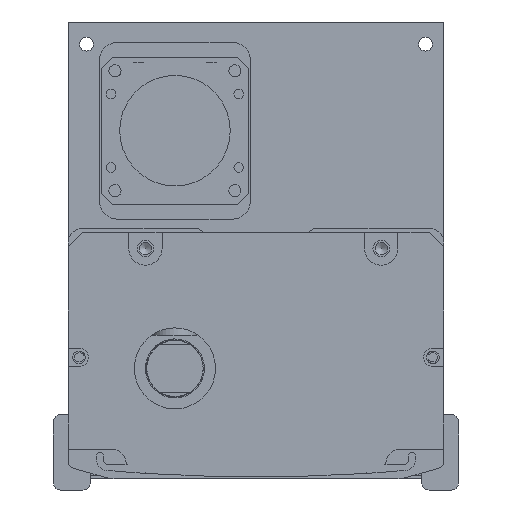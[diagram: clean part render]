
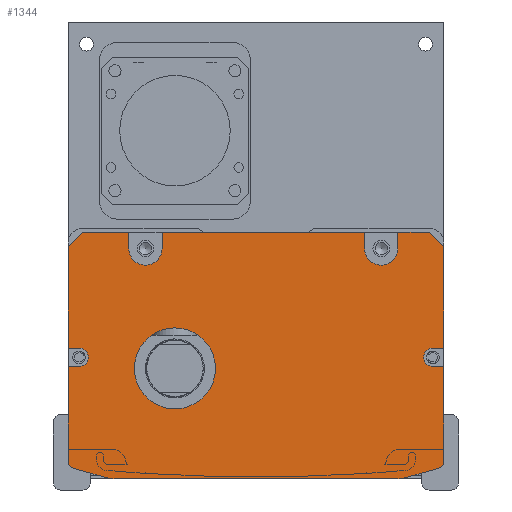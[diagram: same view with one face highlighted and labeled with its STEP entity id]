
A CAD part, front view. The second image highlights one B-rep face of the part: STEP entity #1344.
In plain terms, the highlighted planar face has unit normal (0, -1, 0).
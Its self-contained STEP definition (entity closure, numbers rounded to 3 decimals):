
#1344=ADVANCED_FACE('',(#3990,#3991),#2128,.F.);
#2128=PLANE('',#13024);
#2515=LINE('',#18638,#3277);
#2516=LINE('',#18641,#3278);
#2517=LINE('',#18643,#3279);
#2518=LINE('',#18645,#3280);
#2519=LINE('',#18649,#3281);
#2520=LINE('',#18651,#3282);
#2521=LINE('',#18653,#3283);
#2522=LINE('',#18657,#3284);
#2523=LINE('',#18659,#3285);
#2524=LINE('',#18661,#3286);
#2525=LINE('',#18663,#3287);
#2526=LINE('',#18665,#3288);
#2527=LINE('',#18669,#3289);
#2528=LINE('',#18671,#3290);
#2529=LINE('',#18675,#3291);
#2530=LINE('',#18679,#3292);
#2531=LINE('',#18683,#3293);
#2532=LINE('',#18687,#3294);
#2533=LINE('',#18689,#3295);
#2534=LINE('',#18693,#3296);
#3277=VECTOR('',#14759,1.);
#3278=VECTOR('',#14760,1.);
#3279=VECTOR('',#14761,1.);
#3280=VECTOR('',#14762,1.);
#3281=VECTOR('',#14765,1.);
#3282=VECTOR('',#14766,1.);
#3283=VECTOR('',#14767,1.);
#3284=VECTOR('',#14770,1.);
#3285=VECTOR('',#14771,1.);
#3286=VECTOR('',#14772,1.);
#3287=VECTOR('',#14773,1.);
#3288=VECTOR('',#14774,1.);
#3289=VECTOR('',#14777,1.);
#3290=VECTOR('',#14778,1.);
#3291=VECTOR('',#14781,1.);
#3292=VECTOR('',#14784,1.);
#3293=VECTOR('',#14787,1.);
#3294=VECTOR('',#14790,1.);
#3295=VECTOR('',#14791,1.);
#3296=VECTOR('',#14794,1.);
#3990=FACE_BOUND('',#4660,.T.);
#3991=FACE_BOUND('',#4661,.T.);
#4660=EDGE_LOOP('',(#5945,#5946,#5947,#5948,#5949,#5950,#5951,#5952,#5953,
#5954,#5955,#5956,#5957,#5958,#5959,#5960,#5961,#5962,#5963,#5964,#5965,
#5966,#5967,#5968,#5969,#5970,#5971,#5972));
#4661=EDGE_LOOP('',(#5973));
#5945=ORIENTED_EDGE('',*,*,#10625,.T.);
#5946=ORIENTED_EDGE('',*,*,#10626,.T.);
#5947=ORIENTED_EDGE('',*,*,#10627,.T.);
#5948=ORIENTED_EDGE('',*,*,#10628,.F.);
#5949=ORIENTED_EDGE('',*,*,#10629,.T.);
#5950=ORIENTED_EDGE('',*,*,#10630,.F.);
#5951=ORIENTED_EDGE('',*,*,#10631,.T.);
#5952=ORIENTED_EDGE('',*,*,#10632,.F.);
#5953=ORIENTED_EDGE('',*,*,#10633,.T.);
#5954=ORIENTED_EDGE('',*,*,#10634,.F.);
#5955=ORIENTED_EDGE('',*,*,#10635,.T.);
#5956=ORIENTED_EDGE('',*,*,#10636,.T.);
#5957=ORIENTED_EDGE('',*,*,#10637,.T.);
#5958=ORIENTED_EDGE('',*,*,#10638,.T.);
#5959=ORIENTED_EDGE('',*,*,#10639,.T.);
#5960=ORIENTED_EDGE('',*,*,#10640,.T.);
#5961=ORIENTED_EDGE('',*,*,#10641,.T.);
#5962=ORIENTED_EDGE('',*,*,#10642,.T.);
#5963=ORIENTED_EDGE('',*,*,#10643,.T.);
#5964=ORIENTED_EDGE('',*,*,#10644,.T.);
#5965=ORIENTED_EDGE('',*,*,#10645,.T.);
#5966=ORIENTED_EDGE('',*,*,#10646,.T.);
#5967=ORIENTED_EDGE('',*,*,#10647,.T.);
#5968=ORIENTED_EDGE('',*,*,#10648,.T.);
#5969=ORIENTED_EDGE('',*,*,#10649,.T.);
#5970=ORIENTED_EDGE('',*,*,#10650,.T.);
#5971=ORIENTED_EDGE('',*,*,#10651,.T.);
#5972=ORIENTED_EDGE('',*,*,#10652,.T.);
#5973=ORIENTED_EDGE('',*,*,#10653,.T.);
#9382=VERTEX_POINT('',#18639);
#9383=VERTEX_POINT('',#18640);
#9384=VERTEX_POINT('',#18642);
#9385=VERTEX_POINT('',#18644);
#9386=VERTEX_POINT('',#18646);
#9387=VERTEX_POINT('',#18648);
#9388=VERTEX_POINT('',#18650);
#9389=VERTEX_POINT('',#18652);
#9390=VERTEX_POINT('',#18654);
#9391=VERTEX_POINT('',#18656);
#9392=VERTEX_POINT('',#18658);
#9393=VERTEX_POINT('',#18660);
#9394=VERTEX_POINT('',#18662);
#9395=VERTEX_POINT('',#18664);
#9396=VERTEX_POINT('',#18666);
#9397=VERTEX_POINT('',#18668);
#9398=VERTEX_POINT('',#18670);
#9399=VERTEX_POINT('',#18672);
#9400=VERTEX_POINT('',#18674);
#9401=VERTEX_POINT('',#18676);
#9402=VERTEX_POINT('',#18678);
#9403=VERTEX_POINT('',#18680);
#9404=VERTEX_POINT('',#18682);
#9405=VERTEX_POINT('',#18684);
#9406=VERTEX_POINT('',#18686);
#9407=VERTEX_POINT('',#18688);
#9408=VERTEX_POINT('',#18690);
#9409=VERTEX_POINT('',#18692);
#9410=VERTEX_POINT('',#18695);
#10625=EDGE_CURVE('',#9382,#9383,#2515,.T.);
#10626=EDGE_CURVE('',#9383,#9384,#2516,.T.);
#10627=EDGE_CURVE('',#9384,#9385,#2517,.T.);
#10628=EDGE_CURVE('',#9386,#9385,#2518,.T.);
#10629=EDGE_CURVE('',#9386,#9387,#12249,.T.);
#10630=EDGE_CURVE('',#9388,#9387,#2519,.T.);
#10631=EDGE_CURVE('',#9388,#9389,#2520,.T.);
#10632=EDGE_CURVE('',#9390,#9389,#2521,.T.);
#10633=EDGE_CURVE('',#9390,#9391,#12250,.T.);
#10634=EDGE_CURVE('',#9392,#9391,#2522,.T.);
#10635=EDGE_CURVE('',#9392,#9393,#2523,.T.);
#10636=EDGE_CURVE('',#9393,#9394,#2524,.T.);
#10637=EDGE_CURVE('',#9394,#9395,#2525,.T.);
#10638=EDGE_CURVE('',#9395,#9396,#2526,.T.);
#10639=EDGE_CURVE('',#9396,#9397,#12251,.T.);
#10640=EDGE_CURVE('',#9397,#9398,#2527,.T.);
#10641=EDGE_CURVE('',#9398,#9399,#2528,.T.);
#10642=EDGE_CURVE('',#9399,#9400,#12252,.T.);
#10643=EDGE_CURVE('',#9400,#9401,#2529,.T.);
#10644=EDGE_CURVE('',#9401,#9402,#12253,.T.);
#10645=EDGE_CURVE('',#9402,#9403,#2530,.T.);
#10646=EDGE_CURVE('',#9403,#9404,#12254,.T.);
#10647=EDGE_CURVE('',#9404,#9405,#2531,.T.);
#10648=EDGE_CURVE('',#9405,#9406,#12255,.T.);
#10649=EDGE_CURVE('',#9406,#9407,#2532,.T.);
#10650=EDGE_CURVE('',#9407,#9408,#2533,.T.);
#10651=EDGE_CURVE('',#9408,#9409,#12256,.T.);
#10652=EDGE_CURVE('',#9409,#9382,#2534,.T.);
#10653=EDGE_CURVE('',#9410,#9410,#12257,.T.);
#12249=CIRCLE('',#13015,4.5);
#12250=CIRCLE('',#13016,4.5);
#12251=CIRCLE('',#13017,2.5);
#12252=CIRCLE('',#13018,2.);
#12253=CIRCLE('',#13019,10.);
#12254=CIRCLE('',#13020,10.);
#12255=CIRCLE('',#13021,2.);
#12256=CIRCLE('',#13022,2.5);
#12257=CIRCLE('',#13023,11.);
#13015=AXIS2_PLACEMENT_3D('',#18647,#14763,#14764);
#13016=AXIS2_PLACEMENT_3D('',#18655,#14768,#14769);
#13017=AXIS2_PLACEMENT_3D('',#18667,#14775,#14776);
#13018=AXIS2_PLACEMENT_3D('',#18673,#14779,#14780);
#13019=AXIS2_PLACEMENT_3D('',#18677,#14782,#14783);
#13020=AXIS2_PLACEMENT_3D('',#18681,#14785,#14786);
#13021=AXIS2_PLACEMENT_3D('',#18685,#14788,#14789);
#13022=AXIS2_PLACEMENT_3D('',#18691,#14792,#14793);
#13023=AXIS2_PLACEMENT_3D('',#18694,#14795,#14796);
#13024=AXIS2_PLACEMENT_3D('',#18696,#14797,#14798);
#14759=DIRECTION('',(0.,0.,1.));
#14760=DIRECTION('',(-0.707,0.,0.707));
#14761=DIRECTION('',(-1.,0.,0.));
#14762=DIRECTION('',(0.,0.,1.));
#14763=DIRECTION('',(0.,1.,0.));
#14764=DIRECTION('',(0.,0.,1.));
#14765=DIRECTION('',(0.,0.,-1.));
#14766=DIRECTION('',(-1.,0.,0.));
#14767=DIRECTION('',(0.,0.,1.));
#14768=DIRECTION('',(0.,1.,0.));
#14769=DIRECTION('',(0.,0.,1.));
#14770=DIRECTION('',(0.,0.,-1.));
#14771=DIRECTION('',(-1.,0.,0.));
#14772=DIRECTION('',(-0.707,0.,-0.707));
#14773=DIRECTION('',(0.,0.,-1.));
#14774=DIRECTION('',(1.,0.,0.));
#14775=DIRECTION('',(0.,1.,0.));
#14776=DIRECTION('',(0.,0.,1.));
#14777=DIRECTION('',(-1.,0.,0.));
#14778=DIRECTION('',(0.,0.,-1.));
#14779=DIRECTION('',(0.,-1.,0.));
#14780=DIRECTION('',(0.,0.,1.));
#14781=DIRECTION('',(0.963,0.,-0.269));
#14782=DIRECTION('',(0.,-1.,0.));
#14783=DIRECTION('',(0.,0.,1.));
#14784=DIRECTION('',(1.,0.,0.));
#14785=DIRECTION('',(0.,-1.,0.));
#14786=DIRECTION('',(0.,0.,-1.));
#14787=DIRECTION('',(0.963,0.,0.269));
#14788=DIRECTION('',(0.,-1.,0.));
#14789=DIRECTION('',(0.,0.,-1.));
#14790=DIRECTION('',(0.,0.,1.));
#14791=DIRECTION('',(-1.,0.,0.));
#14792=DIRECTION('',(0.,1.,0.));
#14793=DIRECTION('',(0.,0.,1.));
#14794=DIRECTION('',(1.,0.,0.));
#14795=DIRECTION('',(0.,1.,0.));
#14796=DIRECTION('',(0.,0.,1.));
#14797=DIRECTION('',(0.,1.,0.));
#14798=DIRECTION('',(-1.,0.,0.));
#18638=CARTESIAN_POINT('',(47.808,-417.5,-1.));
#18639=CARTESIAN_POINT('',(47.808,-417.5,-32.5));
#18640=CARTESIAN_POINT('',(47.808,-417.5,-5.));
#18641=CARTESIAN_POINT('',(43.808,-417.5,-1.));
#18642=CARTESIAN_POINT('',(43.808,-417.5,-1.));
#18643=CARTESIAN_POINT('',(-3.192,-417.5,-1.));
#18644=CARTESIAN_POINT('',(35.308,-417.5,-1.));
#18645=CARTESIAN_POINT('',(35.308,-417.5,-1.));
#18646=CARTESIAN_POINT('',(35.308,-417.5,-5.5));
#18647=CARTESIAN_POINT('',(30.808,-417.5,-5.5));
#18648=CARTESIAN_POINT('',(26.308,-417.5,-5.5));
#18649=CARTESIAN_POINT('',(26.308,-417.5,-1.));
#18650=CARTESIAN_POINT('',(26.308,-417.5,-1.));
#18651=CARTESIAN_POINT('',(-54.192,-417.5,-1.));
#18652=CARTESIAN_POINT('',(-28.692,-417.5,-1.));
#18653=CARTESIAN_POINT('',(-28.692,-417.5,-3.5));
#18654=CARTESIAN_POINT('',(-28.692,-417.5,-5.5));
#18655=CARTESIAN_POINT('',(-33.192,-417.5,-5.5));
#18656=CARTESIAN_POINT('',(-37.692,-417.5,-5.5));
#18657=CARTESIAN_POINT('',(-37.692,-417.5,-1.));
#18658=CARTESIAN_POINT('',(-37.692,-417.5,-1.));
#18659=CARTESIAN_POINT('',(-54.192,-417.5,-1.));
#18660=CARTESIAN_POINT('',(-50.192,-417.5,-1.));
#18661=CARTESIAN_POINT('',(-54.192,-417.5,-5.));
#18662=CARTESIAN_POINT('',(-54.192,-417.5,-5.));
#18663=CARTESIAN_POINT('',(-54.192,-417.5,-62.));
#18664=CARTESIAN_POINT('',(-54.192,-417.5,-32.5));
#18665=CARTESIAN_POINT('',(-3.192,-417.5,-32.5));
#18666=CARTESIAN_POINT('',(-51.192,-417.5,-32.5));
#18667=CARTESIAN_POINT('',(-51.192,-417.5,-35.));
#18668=CARTESIAN_POINT('',(-51.192,-417.5,-37.5));
#18669=CARTESIAN_POINT('',(-3.192,-417.5,-37.5));
#18670=CARTESIAN_POINT('',(-54.192,-417.5,-37.5));
#18671=CARTESIAN_POINT('',(-54.192,-417.5,-62.));
#18672=CARTESIAN_POINT('',(-54.192,-417.5,-63.212));
#18673=CARTESIAN_POINT('',(-52.192,-417.5,-63.212));
#18674=CARTESIAN_POINT('',(-52.731,-417.5,-65.138));
#18675=CARTESIAN_POINT('',(-55.807,-417.5,-64.279));
#18676=CARTESIAN_POINT('',(-43.809,-417.5,-67.631));
#18677=CARTESIAN_POINT('',(-41.118,-417.5,-58.));
#18678=CARTESIAN_POINT('',(-41.118,-417.5,-68.));
#18679=CARTESIAN_POINT('',(-54.692,-417.5,-68.));
#18680=CARTESIAN_POINT('',(34.733,-417.5,-68.));
#18681=CARTESIAN_POINT('',(34.733,-417.5,-58.));
#18682=CARTESIAN_POINT('',(37.424,-417.5,-67.631));
#18683=CARTESIAN_POINT('',(49.422,-417.5,-64.279));
#18684=CARTESIAN_POINT('',(46.346,-417.5,-65.138));
#18685=CARTESIAN_POINT('',(45.808,-417.5,-63.212));
#18686=CARTESIAN_POINT('',(47.808,-417.5,-63.212));
#18687=CARTESIAN_POINT('',(47.808,-417.5,-1.));
#18688=CARTESIAN_POINT('',(47.808,-417.5,-37.5));
#18689=CARTESIAN_POINT('',(-3.192,-417.5,-37.5));
#18690=CARTESIAN_POINT('',(44.808,-417.5,-37.5));
#18691=CARTESIAN_POINT('',(44.808,-417.5,-35.));
#18692=CARTESIAN_POINT('',(44.808,-417.5,-32.5));
#18693=CARTESIAN_POINT('',(-3.192,-417.5,-32.5));
#18694=CARTESIAN_POINT('',(-25.192,-417.5,-38.));
#18695=CARTESIAN_POINT('',(-25.192,-417.5,-27.));
#18696=CARTESIAN_POINT('',(-3.192,-417.5,-1.));
